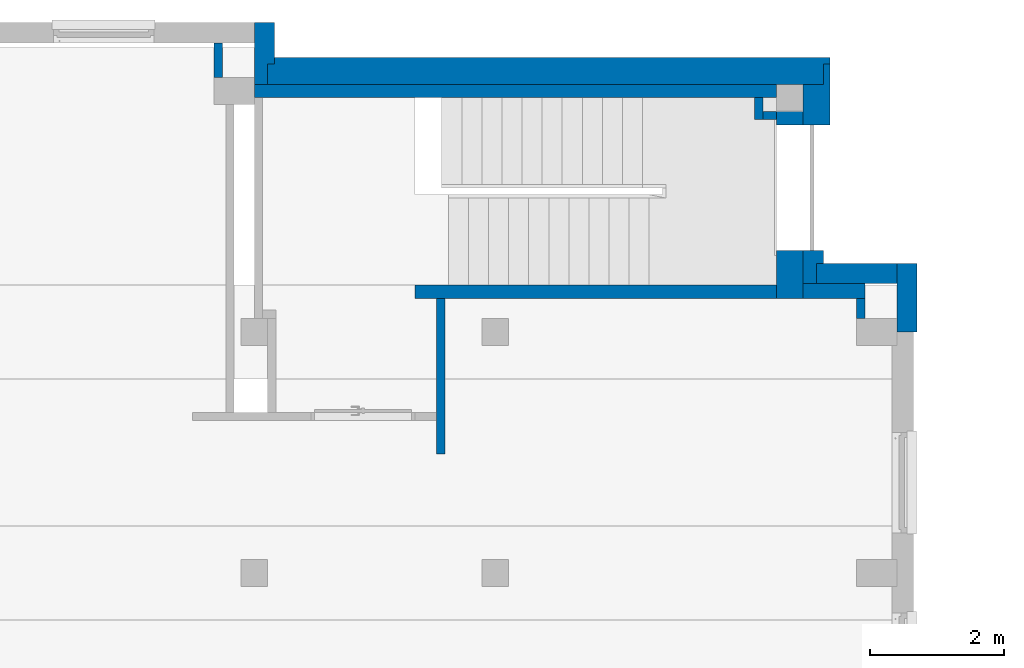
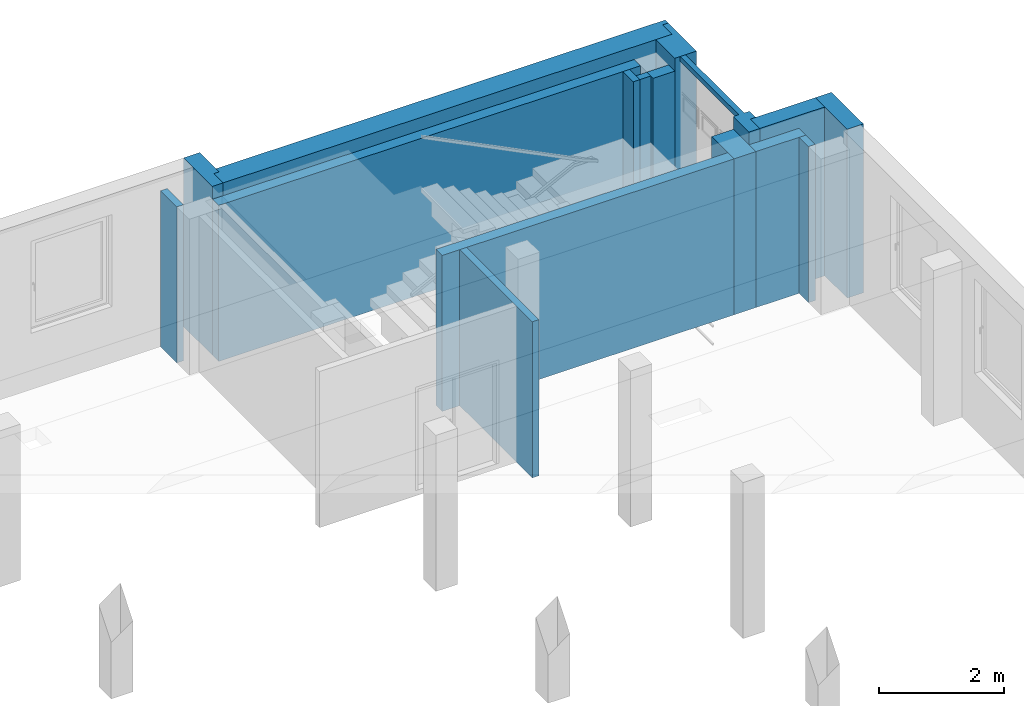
# One storey, part 12 of 27: 16 walls, 1 opening.
"""IFC4 building model written with IfcOpenShell, lengths in metres."""

from ifc_helpers import new_model, entity, si_unit, converted_unit, derived_unit, frame, frame_2d, origin, origin_with_axes, place, context, subcontext, project, spatial, polyline, rectangle, outline, extrude, clip, bounded_halfspace, material, layer, layer_set, layer_usage, element, save


model = new_model("IFC4")

# Units and contexts
model_context = context("Model", 3, precision=1e-05, world=origin())
body_context = subcontext(model_context, "Body", "Model", "MODEL_VIEW")
ifc_project = project(units=[si_unit("LENGTHUNIT", "METRE"), si_unit("AREAUNIT", "SQUARE_METRE"), si_unit("VOLUMEUNIT", "CUBIC_METRE"), si_unit("MASSUNIT", "GRAM", prefix="KILO"), converted_unit("PLANEANGLEUNIT", "DEGREE", entity("IfcPlaneAngleMeasure", 0.0174532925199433), si_unit("PLANEANGLEUNIT", "RADIAN"), dimensions=[0, 0, 0, 0, 0, 0, 0]), derived_unit("THERMALTRANSMITTANCEUNIT", [(si_unit("POWERUNIT", "WATT"), 1), (si_unit("THERMODYNAMICTEMPERATUREUNIT", "KELVIN"), -1), (si_unit("LENGTHUNIT", "METRE"), -2)]), derived_unit("VOLUMETRICFLOWRATEUNIT", [(si_unit("LENGTHUNIT", "METRE"), 3), (converted_unit("TIMEUNIT", "hour", entity("IfcTimeMeasure", 3600.0), si_unit("TIMEUNIT", "SECOND"), dimensions=[0, 0, 1, 0, 0, 0, 0]), -1), (si_unit("LENGTHUNIT", "METRE"), -1)])], contexts=[model_context])

# Site, building, storey
site_placement = place(None, origin())
site = spatial("IfcSite", under=ifc_project, at=site_placement, Name="3. ASŘ", CompositionType="ELEMENT")
building_placement = place(site_placement, origin())
building = spatial("IfcBuilding", under=site, at=building_placement, Name="Pavilon C", CompositionType="ELEMENT")
storey_placement = place(building_placement, frame((0.0, 0.0, 7.2)))
storey = spatial("IfcBuildingStorey", under=building, at=storey_placement, Name="Půdorys 3.NP", CompositionType="ELEMENT", Elevation=7.2)

# Walls
ifc_material_1 = material(Name="ZELEZOBETONOVÁ KCE")
ifc_layer_1 = layer(ifc_material_1, 0.3)
ifc_layer_set_1 = layer_set([ifc_layer_1])
ifc_layer_usage_1 = layer_usage(ifc_layer_set_1, "AXIS2", "POSITIVE", 0.0)
wall_1_placement = place(storey_placement, frame((50.25, 28.8, -0.1), z_axis=(0.0, 0.0, 1.0), x_axis=(0.0, 1.0, 0.0)))
element("IfcWall", 1, at=wall_1_placement, inside=storey, material=ifc_layer_usage_1, Name="ZELEZOBETONOVÁ KCE", context=body_context, shape_type="SweptSolid", body=[
    extrude(rectangle(XDim=1.02, YDim=0.3, at=frame_2d((0.51, 0.15), x_axis=(1.0, 0.0))), origin_with_axes(), (0.0, 0.0, 1.0), 3.3),
])
ifc_material_2 = material(Name="PLYNOSILIKÁT")
ifc_layer_2 = layer(ifc_material_2, 0.3)
ifc_layer_set_2 = layer_set([ifc_layer_2])
ifc_layer_usage_2 = layer_usage(ifc_layer_set_2, "AXIS2", "POSITIVE", 0.0)
wall_2_placement = place(storey_placement, frame((40.65, 32.8, -0.1), z_axis=(0.0, 0.0, 1.0), x_axis=(0.0, 1.0, 0.0)))
element("IfcWall", 2, at=wall_2_placement, inside=storey, material=ifc_layer_usage_2, Name="PLYNOSILIKÁT", context=body_context, shape_type="SweptSolid", body=[
    extrude(outline(polyline([(0.299999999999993, -0.3), (0.92, -0.3), (0.92, 0.0), (0.0, 0.0), (0.0, -0.2), (0.299999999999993, -0.2), (0.299999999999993, -0.3)])), frame((-0.299999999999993, 0.3, 0.0), z_axis=(0.0, 0.0, 1.0), x_axis=(1.0, 0.0, 0.0)), (0.0, 0.0, 1.0), 3.3),
])
ifc_material_3 = material(Name="ZDIVO Z CDm")
ifc_layer_3 = layer(ifc_material_3, 0.125)
ifc_layer_set_3 = layer_set([ifc_layer_3])
ifc_layer_usage_3 = layer_usage(ifc_layer_set_3, "AXIS2", "POSITIVE", 0.0)
wall_3_placement = place(storey_placement, frame((39.75, 33.12, -0.1), z_axis=(0.0, 0.0, 1.0), x_axis=(0.0, -1.0, 0.0)))
element("IfcWall", 3, at=wall_3_placement, inside=storey, material=ifc_layer_usage_3, Name="ZDIVO Z CDm", context=body_context, shape_type="SweptSolid", body=[
    extrude(rectangle(XDim=0.520000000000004, YDim=0.125, at=frame_2d((0.260000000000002, 0.0625), x_axis=(1.0, 0.0))), origin_with_axes(), (0.0, 0.0, 1.0), 3.05),
])
ifc_material_4 = material(Name="ZDIVO Z CDm")
ifc_layer_4 = layer(ifc_material_4, 0.2)
ifc_layer_set_4 = layer_set([ifc_layer_4])
ifc_layer_usage_4 = layer_usage(ifc_layer_set_4, "AXIS2", "POSITIVE", 0.0)
wall_4_placement = place(storey_placement, frame((48.15, 31.895, -0.1)))
element("IfcWall", 4, at=wall_4_placement, inside=storey, material=ifc_layer_usage_4, Name="ZDIVO Z CDm", context=body_context, shape_type="SweptSolid", body=[
    extrude(rectangle(XDim=0.400000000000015, YDim=0.2, at=frame_2d((0.200000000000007, 0.1), x_axis=(1.0, 0.0))), origin_with_axes(), (0.0, 0.0, 1.0), 3.05),
])
ifc_material_5 = material(Name="ZDIVO Z CDm")
ifc_layer_5 = layer(ifc_material_5, 0.125)
ifc_layer_set_5 = layer_set([ifc_layer_5])
ifc_layer_usage_5 = layer_usage(ifc_layer_set_5, "AXIS2", "POSITIVE", 0.0)
wall_5_placement = place(storey_placement, frame((47.95, 31.97, -0.1), z_axis=(0.0, 0.0, 1.0), x_axis=(0.0, 1.0, 0.0)))
element("IfcWall", 5, at=wall_5_placement, inside=storey, material=ifc_layer_usage_5, Name="ZDIVO Z CDm", context=body_context, shape_type="SweptSolid", body=[
    extrude(rectangle(XDim=0.330000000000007, YDim=0.125, at=frame_2d((0.165000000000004, 0.0625), x_axis=(1.0, 0.0))), origin_with_axes(), (0.0, 0.0, 1.0), 3.05),
])
ifc_material_6 = material(Name="ZELEZOBETONOVÁ KCE")
ifc_layer_6 = layer(ifc_material_6, 0.2)
ifc_layer_set_6 = layer_set([ifc_layer_6])
ifc_layer_usage_6 = layer_usage(ifc_layer_set_6, "AXIS2", "POSITIVE", 0.0)
wall_6_placement = place(storey_placement, frame((48.15, 29.5, -0.1), z_axis=(0.0, 0.0, 1.0), x_axis=(-1.0, 0.0, 0.0)))
element("IfcWall", 6, at=wall_6_placement, inside=storey, material=ifc_layer_usage_6, Name="ZELEZOBETONOVÁ KCE", context=body_context, shape_type="SweptSolid", body=[
    extrude(rectangle(XDim=5.4, YDim=0.2, at=frame_2d((2.7, 0.1), x_axis=(1.0, 0.0))), origin_with_axes(), (0.0, 0.0, 1.0), 3.05),
])
ifc_material_7 = material(Name="ZDIVO Z CDm")
ifc_layer_7 = layer(ifc_material_7, 0.125)
ifc_layer_set_7 = layer_set([ifc_layer_7])
ifc_layer_usage_7 = layer_usage(ifc_layer_set_7, "AXIS2", "POSITIVE", 0.0)
wall_7_placement = place(storey_placement, frame((43.075, 29.3, -0.1), z_axis=(0.0, 0.0, 1.0), x_axis=(0.0, -1.0, 0.0)))
element("IfcWall", 7, at=wall_7_placement, inside=storey, material=ifc_layer_usage_7, Name="ZDIVO Z CDm", context=body_context, shape_type="SweptSolid", body=[
    extrude(rectangle(XDim=2.325, YDim=0.125, at=frame_2d((1.1625, 0.0625), x_axis=(1.0, 0.0))), origin_with_axes(), (0.0, 0.0, 1.0), 3.05),
])
ifc_material_8 = material(Name="ZDIVO Z CDm")
ifc_layer_8 = layer(ifc_material_8, 0.4)
ifc_layer_set_8 = layer_set([ifc_layer_8])
ifc_layer_usage_8 = layer_usage(ifc_layer_set_8, "AXIS2", "POSITIVE", 0.0)
wall_8_placement = place(storey_placement, frame((48.55, 29.3, -0.1), z_axis=(0.0, 0.0, 1.0), x_axis=(0.0, 1.0, 0.0)))
element("IfcWall", 8, at=wall_8_placement, inside=storey, material=ifc_layer_usage_8, Name="ZDIVO Z CDm", context=body_context, shape_type="SweptSolid", body=[
    extrude(rectangle(XDim=0.719999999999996, YDim=0.4, at=frame_2d((0.359999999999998, 0.2), x_axis=(1.0, 0.0))), origin_with_axes(), (0.0, 0.0, 1.0), 3.05),
])
ifc_material_9 = material(Name="ZELEZOBETONOVÁ KCE")
ifc_layer_9 = layer(ifc_material_9, 0.2)
ifc_layer_set_9 = layer_set([ifc_layer_9])
ifc_layer_usage_9 = layer_usage(ifc_layer_set_9, "AXIS2", "POSITIVE", -0.1)
wall_9_placement = place(storey_placement, frame((40.35, 32.3, -0.1)))
element("IfcWall", 9, at=wall_9_placement, inside=storey, material=ifc_layer_usage_9, Name="ZELEZOBETONOVÁ KCE", context=body_context, shape_type="SweptSolid", body=[
    extrude(rectangle(XDim=7.79999999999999, YDim=0.2, at=frame_2d((3.89999999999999, 0.1), x_axis=(1.0, 0.0))), origin_with_axes(), (0.0, 0.0, 1.0), 3.05),
])
ifc_material_10 = material(Name="EPS")
ifc_layer_10 = layer(ifc_material_10, 0.1)
ifc_material_11 = material(Name="ZELEZOBETONOVÁ KCE")
ifc_layer_11 = layer(ifc_material_11, 0.299999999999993)
ifc_layer_set_10 = layer_set([ifc_layer_10, ifc_layer_11])
ifc_layer_usage_10 = layer_usage(ifc_layer_set_10, "AXIS2", "POSITIVE", -0.1)
wall_10_placement = place(storey_placement, frame((48.95, 32.9, -0.1), z_axis=(0.0, 0.0, 1.0), x_axis=(-1.0, 0.0, 0.0)))
element("IfcWall", 10, at=wall_10_placement, inside=storey, material=ifc_layer_usage_10, Name="ZELEZOBETONOVÁ KCE", context=body_context, shape_type="SweptSolid", body=[
    extrude(outline(polyline([(-8.4, -0.399999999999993), (-0.1, -0.399999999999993), (-0.1, -0.299999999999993), (0.0, -0.299999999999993), (0.0, 0.0), (-8.3, 0.0), (-8.3, -0.299999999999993), (-8.4, -0.299999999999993), (-8.4, -0.399999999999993)])), frame((8.4, 0.399999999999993, 0.0), z_axis=(0.0, 0.0, 1.0), x_axis=(1.0, 0.0, 0.0)), (0.0, 0.0, 1.0), 3.3),
])
ifc_material_12 = material(Name="ZDIVO Z CDm")
ifc_layer_12 = layer(ifc_material_12, 0.125)
ifc_layer_set_11 = layer_set([ifc_layer_12])
ifc_layer_usage_11 = layer_usage(ifc_layer_set_11, "AXIS2", "POSITIVE", 0.0)
wall_11_placement = place(storey_placement, frame((49.35, 29.3, -0.1), z_axis=(0.0, 0.0, 1.0), x_axis=(0.0, -1.0, 0.0)))
element("IfcWall", 11, at=wall_11_placement, inside=storey, material=ifc_layer_usage_11, Name="ZDIVO Z CDm", context=body_context, shape_type="SweptSolid", body=[
    extrude(rectangle(XDim=0.299999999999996, YDim=0.125, at=frame_2d((0.149999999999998, 0.0625), x_axis=(1.0, 0.0))), origin_with_axes(), (0.0, 0.0, 1.0), 3.05),
])
ifc_material_13 = material(Name="ZDIVO Z CDm")
ifc_layer_13 = layer(ifc_material_13, 0.22)
ifc_layer_set_12 = layer_set([ifc_layer_13])
ifc_layer_usage_12 = layer_usage(ifc_layer_set_12, "AXIS2", "POSITIVE", 0.0)
wall_12_placement = place(storey_placement, frame((48.55, 29.3, -0.1)))
element("IfcWall", 12, at=wall_12_placement, inside=storey, material=ifc_layer_usage_12, Name="ZDIVO Z CDm", context=body_context, shape_type="SweptSolid", body=[
    extrude(rectangle(XDim=0.925, YDim=0.22, at=frame_2d((0.4625, 0.11), x_axis=(1.0, 0.0))), origin_with_axes(), (0.0, 0.0, 1.0), 3.05),
])
ifc_material_14 = material(Name="ZELEZOBETONOVÁ KCE")
ifc_layer_14 = layer(ifc_material_14, 0.3)
ifc_layer_set_13 = layer_set([ifc_layer_14])
ifc_layer_usage_13 = layer_usage(ifc_layer_set_13, "AXIS2", "POSITIVE", 0.0)
wall_13_placement = place(storey_placement, frame((49.95, 29.82, -0.1), z_axis=(0.0, 0.0, 1.0), x_axis=(-1.0, 0.0, 0.0)))
element("IfcWall", 13, at=wall_13_placement, inside=storey, material=ifc_layer_usage_13, Name="ZELEZOBETONOVÁ KCE", context=body_context, shape_type="SweptSolid", body=[
    extrude(rectangle(XDim=1.2, YDim=0.3, at=frame_2d((0.6, 0.15), x_axis=(1.0, 0.0))), origin_with_axes(), (0.0, 0.0, 1.0), 3.3),
])
ifc_material_15 = material(Name="EPS")
ifc_layer_15 = layer(ifc_material_15, 0.1)
ifc_material_16 = material(Name="ZDIVO Z CDm")
ifc_layer_16 = layer(ifc_material_16, 0.3)
ifc_layer_set_14 = layer_set([ifc_layer_15, ifc_layer_16])
ifc_layer_usage_14 = layer_usage(ifc_layer_set_14, "AXIS2", "POSITIVE", -0.1)
wall_14_placement = place(storey_placement, frame((48.95, 31.895, -0.1), z_axis=(0.0, 0.0, 1.0), x_axis=(0.0, 1.0, 0.0)))
element("IfcWall", 14, at=wall_14_placement, inside=storey, material=ifc_layer_usage_14, Name="ZDIVO Z CDm", context=body_context, shape_type="SweptSolid", body=[
    extrude(outline(polyline([(0.0, -0.4), (0.905000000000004, -0.4), (0.905000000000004, -0.3), (0.605000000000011, -0.3), (0.605000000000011, 0.0), (0.0, 0.0), (0.0, -0.4)])), frame((0.0, 0.4, 0.0), z_axis=(0.0, 0.0, 1.0), x_axis=(1.0, 0.0, 0.0)), (0.0, 0.0, 1.0), 3.3),
])

# Wall, opening
ifc_material_17 = material(Name="ZDIVO Z CDm")
ifc_layer_17 = layer(ifc_material_17, 0.3)
ifc_layer_set_15 = layer_set([ifc_layer_17])
ifc_layer_usage_15 = layer_usage(ifc_layer_set_15, "AXIS2", "POSITIVE", 0.0)
wall_15_placement = place(storey_placement, frame((48.85, 29.82, -0.1), z_axis=(0.0, 0.0, 1.0), x_axis=(0.0, 1.0, 0.0)))
wall_15 = element("IfcWall", 15, at=wall_15_placement, inside=storey, material=ifc_layer_usage_15, Name="ZDIVO Z CDm", context=body_context, shape_type="Clipping", body=[
    clip(clip(extrude(outline(polyline([(0.300000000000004, -0.3), (2.375, -0.3), (2.375, 0.0), (0.0, 0.0), (0.0, -0.2), (0.300000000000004, -0.2), (0.300000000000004, -0.3)])), frame((-0.300000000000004, 0.3, 0.0), z_axis=(0.0, 0.0, 1.0), x_axis=(1.0, 0.0, 0.0)), (0.0, 0.0, 1.0), 3.3), bounded_halfspace(frame((1.13749999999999, 0.25, 3.2), z_axis=(0.0, 0.0, -1.0), x_axis=(0.0, 1.0, 0.0)), True, origin_with_axes(), polyline([(2.07499999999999, 0.2), (2.07499999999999, 0.3), (0.199999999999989, 0.3), (0.199999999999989, 0.2), (2.07499999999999, 0.2)]))), bounded_halfspace(frame((1.13749999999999, 0.05, 3.2), z_axis=(0.0, 0.0, -1.0), x_axis=(0.0, -1.0, 0.0)), True, origin_with_axes(), polyline([(0.199999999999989, 0.1), (0.199999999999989, 0.0), (2.07499999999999, 0.0), (2.07499999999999, 0.1), (0.199999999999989, 0.1)]))),
])
opening_placement = place(wall_15_placement, frame((0.199999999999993, 0.0, -0.15), z_axis=(0.0, 1.0, 0.0), x_axis=(0.0, 0.0, 1.0)))
element("IfcOpeningElement", 16, at=opening_placement, cuts=wall_15, Name="Okenní otvor", ObjectType="Opening", context=body_context, shape_type="SweptSolid", body=[
    extrude(outline(polyline([(0.0, 1.875), (3.35, 1.875), (3.35, 0.0), (0.0, 0.0), (0.0, 1.875)])), origin_with_axes(), (0.0, 0.0, 1.0), 0.3),
])

# Wall
ifc_material_18 = material(Name="ZDIVO Z CDm")
ifc_layer_18 = layer(ifc_material_18, 0.125000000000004)
ifc_layer_set_16 = layer_set([ifc_layer_18])
ifc_layer_usage_16 = layer_usage(ifc_layer_set_16, "AXIS2", "POSITIVE", 0.0)
wall_16_placement = place(storey_placement, frame((48.15, 32.095, -0.1), z_axis=(0.0, 0.0, 1.0), x_axis=(-1.0, -1.81898940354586e-14, 0.0)))
element("IfcWall", 17, at=wall_16_placement, inside=storey, material=ifc_layer_usage_16, Name="ZDIVO Z CDm", context=body_context, shape_type="SweptSolid", body=[
    extrude(rectangle(XDim=0.2, YDim=0.125000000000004, at=frame_2d((0.1, 0.0625000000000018), x_axis=(1.0, 0.0))), origin_with_axes(), (0.0, 0.0, 1.0), 3.05),
])

save(model, "model.ifc")
